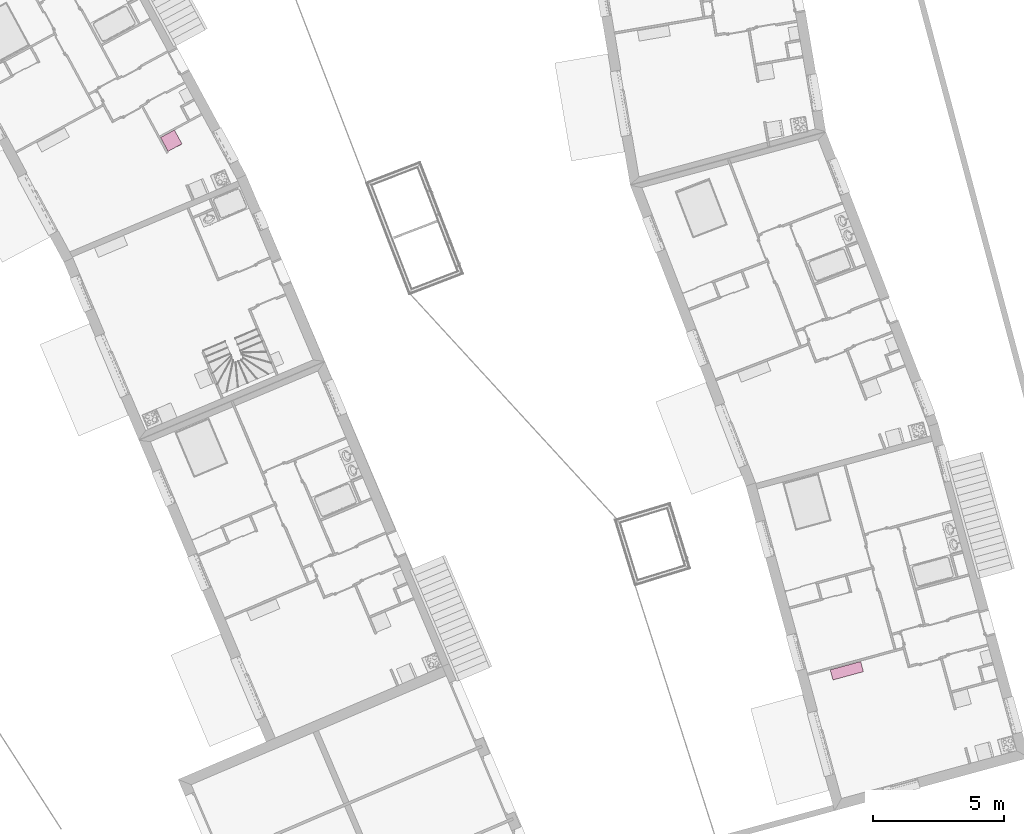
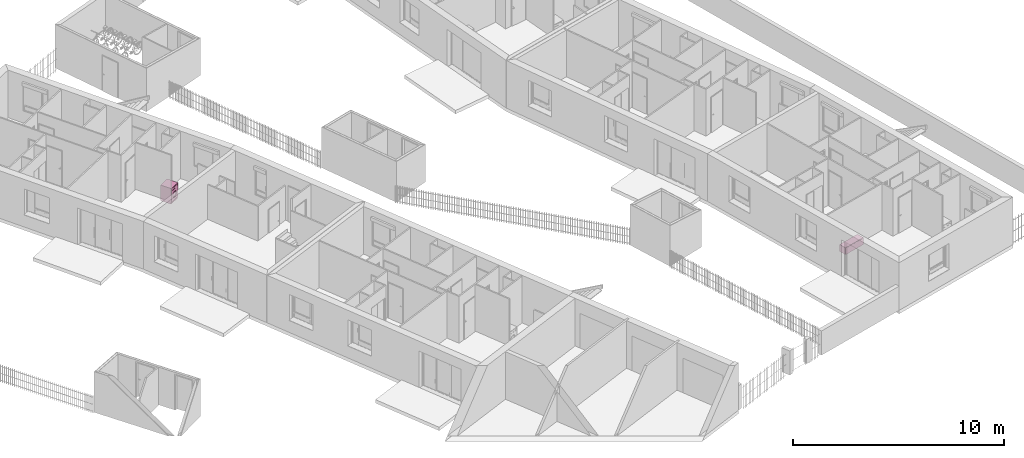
# One storey, part 160 of 195: 2 furnishings.
"""IFC2X3 building model written with IfcOpenShell, lengths in metres."""

from ifc_helpers import new_model, entity, si_unit, converted_unit, derived_unit, money_unit, direction, frame, origin_with_axes, place, context, subcontext, project, spatial, open_shell, faceted_brep, surface_model, source, transform, mapped, type_object, element, save


model = new_model("IFC2X3")

# Units and contexts
model_context = context("Model", 3, precision=1e-05, world=origin_with_axes(), true_north=direction((0.0, 1.0)))
body_context = subcontext(model_context, "Body", "Model", "MODEL_VIEW")
ifc_project = project(units=[si_unit("LENGTHUNIT", "METRE"), si_unit("AREAUNIT", "SQUARE_METRE"), si_unit("VOLUMEUNIT", "CUBIC_METRE"), converted_unit("PLANEANGLEUNIT", "DEGREE", entity("IfcPlaneAngleMeasure", 0.0174532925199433), si_unit("PLANEANGLEUNIT", "RADIAN"), dimensions=[0, 0, 0, 0, 0, 0, 0]), money_unit("CHF"), converted_unit("TIMEUNIT", "Year", entity("IfcTimeMeasure", 31557600.0), si_unit("TIMEUNIT", "SECOND"), dimensions=[0, 0, 1, 0, 0, 0, 0]), si_unit("MASSUNIT", "GRAM", prefix="KILO"), si_unit("THERMODYNAMICTEMPERATUREUNIT", "DEGREE_CELSIUS"), si_unit("LUMINOUSINTENSITYUNIT", "LUMEN"), si_unit("ENERGYUNIT", "JOULE", prefix="MEGA"), derived_unit("THERMALCONDUCTANCEUNIT", [(si_unit("POWERUNIT", "WATT"), 1), (si_unit("LENGTHUNIT", "METRE"), -1), (si_unit("THERMODYNAMICTEMPERATUREUNIT", "KELVIN"), -1)]), derived_unit("SPECIFICHEATCAPACITYUNIT", [(si_unit("ENERGYUNIT", "JOULE"), 1), (si_unit("MASSUNIT", "GRAM", prefix="KILO"), -1), (si_unit("THERMODYNAMICTEMPERATUREUNIT", "KELVIN"), -1)]), derived_unit("MASSDENSITYUNIT", [(si_unit("MASSUNIT", "GRAM", prefix="KILO"), 1), (si_unit("VOLUMEUNIT", "CUBIC_METRE"), -1)])], contexts=[model_context])

# Site, building, storey
site_placement = place(None, origin_with_axes())
site = spatial("IfcSite", under=ifc_project, at=site_placement, Name="Site", CompositionType="ELEMENT")
building_placement = place(site_placement, origin_with_axes())
building = spatial("IfcBuilding", under=site, at=building_placement, Name="Bâtiment", CompositionType="ELEMENT")
storey_placement = place(building_placement, origin_with_axes())
storey = spatial("IfcBuildingStorey", under=building, at=storey_placement, Name="rdc", CompositionType="ELEMENT", Elevation=0.0)

# Furnishings
furnishing_element_type_1 = type_object("IfcFurnishingElementType", Name="Meuble à plans 27")
shared_shape_1 = source(origin_with_axes(), body_context, "Body", "SurfaceModel", [
    surface_model("IfcShellBasedSurfaceModel", [(-1.18, 0.02, 0.0), (-1.18, 0.4, 0.0), (-0.02, 0.4, 0.0), (-0.02, 0.02, 0.0)], [open_shell([[[0, 1, 2, 3]]])]),
    faceted_brep([(0.0, 0.4, 0.0), (0.0, 0.0, 0.0), (-1.2, 0.0, 0.0), (-1.2, 0.4, 0.0), (0.0, 0.4, 0.4), (0.0, 0.0, 0.4), (-1.2, 0.0, 0.4), (-0.02, 0.0, 0.02), (-1.18, 0.0, 0.02), (-1.18, 0.0, 0.38), (-0.02, 0.0, 0.38), (-1.2, 0.4, 0.4), (-0.02, 0.4, 0.01999999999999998), (-0.02, 0.4, 0.38), (-1.18, 0.4, 0.38), (-1.18, 0.4, 0.01999999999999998)], [[[0, 1, 2, 3]], [[4, 5, 1, 0]], [[1, 5, 6, 2], [7, 8, 9, 10]], [[3, 2, 6, 11]], [[0, 3, 11, 4], [12, 13, 14, 15]], [[11, 6, 5, 4]], [[15, 8, 7, 12]], [[14, 9, 8, 15]], [[13, 10, 9, 14]], [[12, 7, 10, 13]]]),
    faceted_brep([(-1.18, 0.4, 0.01999999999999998), (-1.18, 0.4, 0.38), (-0.02, 0.4, 0.38), (-0.02, 0.4, 0.01999999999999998), (-1.18, 0.38, 0.01999999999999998), (-1.18, 0.3800000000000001, 0.38), (-0.02, 0.3800000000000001, 0.38), (-0.02, 0.38, 0.01999999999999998)], [[[0, 1, 2, 3]], [[0, 4, 5, 1]], [[1, 5, 6, 2]], [[2, 6, 7, 3]], [[3, 7, 4, 0]], [[7, 6, 5, 4]]]),
    faceted_brep([(-1.18, 0.0, 0.02), (-1.18, 0.38, 0.02), (-0.02, 0.38, 0.02), (-0.02, 0.0, 0.02), (-1.18, 0.0, 0.3750000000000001), (-1.18, 0.38, 0.3750000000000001), (-0.02, 0.38, 0.3750000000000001), (-0.02, 0.0, 0.3750000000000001)], [[[0, 1, 2, 3]], [[0, 4, 5, 1]], [[1, 5, 6, 2]], [[2, 6, 7, 3]], [[3, 7, 4, 0]], [[7, 6, 5, 4]]]),
])
furnishing_1_placement = place(storey_placement, frame((9590.842043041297, -1054.140814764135, 57.92018680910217), z_axis=(0.0, 0.0, 1.0), x_axis=(0.9648682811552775, 0.2627340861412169, 0.0)))
element("IfcFurnishingElement", 1, at=furnishing_1_placement, inside=storey, type_object=furnishing_element_type_1, Name="Obj.-376", context=body_context, shape_type="MappedRepresentation", body=[
    mapped(shared_shape_1, transform((0.0, 0.0, 0.0))),
])
furnishing_element_type_2 = type_object("IfcFurnishingElementType", Name="Machine à laver")
shared_shape_2 = source(origin_with_axes(), body_context, "Body", "SurfaceModel", [
    faceted_brep([(0.0, 0.02, 0.1), (0.0, 0.0, 0.1), (-0.6, 0.0, 0.1), (-0.6, 0.02, 0.1), (0.0, 0.02000000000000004, 0.74), (0.0, 0.0, 0.74), (-0.6, 0.0, 0.74), (-0.4714285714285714, 0.0, 0.42), (-0.4655872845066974, 0.0, 0.4643689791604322), (-0.448461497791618, 0.0, 0.5057142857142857), (-0.4212183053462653, 0.0, 0.5412183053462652), (-0.3857142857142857, 0.0, 0.568461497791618), (-0.3443689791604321, 0.0, 0.5855872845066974), (-0.3, 0.0, 0.5914285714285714), (-0.2556310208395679, 0.0, 0.5855872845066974), (-0.2142857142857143, 0.0, 0.5684614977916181), (-0.1787816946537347, 0.0, 0.5412183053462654), (-0.1515385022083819, 0.0, 0.5057142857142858), (-0.1344127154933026, 0.0, 0.4643689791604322), (-0.1285714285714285, 0.0, 0.42), (-0.1344127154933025, 0.0, 0.3756310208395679), (-0.1515385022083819, 0.0, 0.3342857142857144), (-0.1787816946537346, 0.0, 0.2987816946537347), (-0.2142857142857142, 0.0, 0.2715385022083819), (-0.2556310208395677, 0.0, 0.2544127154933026), (-0.2999999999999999, 0.0, 0.2485714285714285), (-0.344368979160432, 0.0, 0.2544127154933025), (-0.3857142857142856, 0.0, 0.2715385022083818), (-0.4212183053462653, 0.0, 0.2987816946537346), (-0.448461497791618, 0.0, 0.3342857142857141), (-0.4655872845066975, 0.0, 0.3756310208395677), (-0.6, 0.02000000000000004, 0.74), (-0.4714285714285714, 0.02000000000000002, 0.42), (-0.4655872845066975, 0.02000000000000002, 0.3756310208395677), (-0.448461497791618, 0.02000000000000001, 0.3342857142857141), (-0.4212183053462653, 0.02000000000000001, 0.2987816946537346), (-0.3857142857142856, 0.02000000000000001, 0.2715385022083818), (-0.344368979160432, 0.02000000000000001, 0.2544127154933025), (-0.2999999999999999, 0.02000000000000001, 0.2485714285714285), (-0.2556310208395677, 0.02000000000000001, 0.2544127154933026), (-0.2142857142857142, 0.02000000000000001, 0.2715385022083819), (-0.1787816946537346, 0.02000000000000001, 0.2987816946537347), (-0.1515385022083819, 0.02000000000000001, 0.3342857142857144), (-0.1344127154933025, 0.02000000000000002, 0.3756310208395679), (-0.1285714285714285, 0.02000000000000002, 0.42), (-0.1344127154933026, 0.02000000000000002, 0.4643689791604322), (-0.1515385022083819, 0.02000000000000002, 0.5057142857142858), (-0.1787816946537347, 0.02000000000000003, 0.5412183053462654), (-0.2142857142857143, 0.02000000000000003, 0.5684614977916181), (-0.2556310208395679, 0.02000000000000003, 0.5855872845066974), (-0.3, 0.02000000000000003, 0.5914285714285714), (-0.3443689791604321, 0.02000000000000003, 0.5855872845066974), (-0.3857142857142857, 0.02000000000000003, 0.568461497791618), (-0.4212183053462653, 0.02000000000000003, 0.5412183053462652), (-0.448461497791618, 0.02000000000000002, 0.5057142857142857), (-0.4655872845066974, 0.02000000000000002, 0.4643689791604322)], [[[0, 1, 2, 3]], [[4, 5, 1, 0]], [[1, 5, 6, 2], [7, 8, 9, 10, 11, 12, 13, 14, 15, 16, 17, 18, 19, 20, 21, 22, 23, 24, 25, 26, 27, 28, 29, 30]], [[3, 2, 6, 31]], [[0, 3, 31, 4], [32, 33, 34, 35, 36, 37, 38, 39, 40, 41, 42, 43, 44, 45, 46, 47, 48, 49, 50, 51, 52, 53, 54, 55]], [[31, 6, 5, 4]], [[55, 8, 7, 32]], [[54, 9, 8, 55]], [[53, 10, 9, 54]], [[52, 11, 10, 53]], [[51, 12, 11, 52]], [[50, 13, 12, 51]], [[49, 14, 13, 50]], [[48, 15, 14, 49]], [[47, 16, 15, 48]], [[46, 17, 16, 47]], [[45, 18, 17, 46]], [[44, 19, 18, 45]], [[43, 20, 19, 44]], [[42, 21, 20, 43]], [[41, 22, 21, 42]], [[40, 23, 22, 41]], [[39, 24, 23, 40]], [[38, 25, 24, 39]], [[37, 26, 25, 38]], [[36, 27, 26, 37]], [[35, 28, 27, 36]], [[34, 29, 28, 35]], [[33, 30, 29, 34]], [[32, 7, 30, 33]]]),
    faceted_brep([(-0.4714285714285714, 0.04000000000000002, 0.42), (-0.4714285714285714, 0.02000000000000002, 0.42), (-0.4655872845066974, 0.02000000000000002, 0.4643689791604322), (-0.4655872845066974, 0.04000000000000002, 0.4643689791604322), (-0.4655872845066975, 0.04000000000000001, 0.3756310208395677), (-0.4655872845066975, 0.02000000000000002, 0.3756310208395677), (-0.448461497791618, 0.02000000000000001, 0.3342857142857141), (-0.4212183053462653, 0.02000000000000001, 0.2987816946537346), (-0.3857142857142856, 0.02000000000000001, 0.2715385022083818), (-0.344368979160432, 0.02000000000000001, 0.2544127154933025), (-0.2999999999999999, 0.02000000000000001, 0.2485714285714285), (-0.2556310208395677, 0.02000000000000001, 0.2544127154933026), (-0.2142857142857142, 0.02000000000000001, 0.2715385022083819), (-0.1787816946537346, 0.02000000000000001, 0.2987816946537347), (-0.1515385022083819, 0.02000000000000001, 0.3342857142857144), (-0.1344127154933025, 0.02000000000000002, 0.3756310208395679), (-0.1285714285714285, 0.02000000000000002, 0.42), (-0.1344127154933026, 0.02000000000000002, 0.4643689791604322), (-0.1515385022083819, 0.02000000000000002, 0.5057142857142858), (-0.1787816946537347, 0.02000000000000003, 0.5412183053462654), (-0.2142857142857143, 0.02000000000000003, 0.5684614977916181), (-0.2556310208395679, 0.02000000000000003, 0.5855872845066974), (-0.3, 0.02000000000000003, 0.5914285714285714), (-0.3443689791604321, 0.02000000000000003, 0.5855872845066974), (-0.3857142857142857, 0.02000000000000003, 0.568461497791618), (-0.4212183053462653, 0.02000000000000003, 0.5412183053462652), (-0.448461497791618, 0.02000000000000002, 0.5057142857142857), (-0.4371428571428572, 0.02000000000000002, 0.42), (-0.432469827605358, 0.02000000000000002, 0.4554951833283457), (-0.4187691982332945, 0.02000000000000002, 0.4885714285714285), (-0.3969746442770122, 0.02000000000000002, 0.5169746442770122), (-0.3685714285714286, 0.02000000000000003, 0.5387691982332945), (-0.3354951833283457, 0.02000000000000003, 0.552469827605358), (-0.3, 0.02000000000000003, 0.5571428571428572), (-0.2645048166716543, 0.02000000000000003, 0.552469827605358), (-0.2314285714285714, 0.02000000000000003, 0.5387691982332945), (-0.2030253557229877, 0.02000000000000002, 0.5169746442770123), (-0.1812308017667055, 0.02000000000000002, 0.4885714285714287), (-0.167530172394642, 0.02000000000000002, 0.4554951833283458), (-0.1628571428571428, 0.02000000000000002, 0.42), (-0.167530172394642, 0.02000000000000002, 0.3845048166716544), (-0.1812308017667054, 0.02000000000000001, 0.3514285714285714), (-0.2030253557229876, 0.02000000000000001, 0.3230253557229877), (-0.2314285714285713, 0.02000000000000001, 0.3012308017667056), (-0.2645048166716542, 0.02000000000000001, 0.287530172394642), (-0.2999999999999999, 0.02000000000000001, 0.2828571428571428), (-0.3354951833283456, 0.02000000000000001, 0.287530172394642), (-0.3685714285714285, 0.02000000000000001, 0.3012308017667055), (-0.3969746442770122, 0.02000000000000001, 0.3230253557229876), (-0.4187691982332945, 0.02000000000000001, 0.3514285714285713), (-0.432469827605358, 0.02000000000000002, 0.3845048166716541), (-0.448461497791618, 0.04000000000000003, 0.5057142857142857), (-0.4212183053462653, 0.04000000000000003, 0.5412183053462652), (-0.3857142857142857, 0.04000000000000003, 0.568461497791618), (-0.3443689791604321, 0.04000000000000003, 0.5855872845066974), (-0.3, 0.04000000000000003, 0.5914285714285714), (-0.2556310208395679, 0.04000000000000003, 0.5855872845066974), (-0.2142857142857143, 0.04000000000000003, 0.5684614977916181), (-0.1787816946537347, 0.04000000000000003, 0.5412183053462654), (-0.1515385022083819, 0.04000000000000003, 0.5057142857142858), (-0.1344127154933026, 0.04000000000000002, 0.4643689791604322), (-0.1285714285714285, 0.04000000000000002, 0.42), (-0.1344127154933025, 0.04000000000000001, 0.3756310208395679), (-0.1515385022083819, 0.04000000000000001, 0.3342857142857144), (-0.1787816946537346, 0.04000000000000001, 0.2987816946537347), (-0.2142857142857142, 0.04000000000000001, 0.2715385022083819), (-0.2556310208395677, 0.04000000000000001, 0.2544127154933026), (-0.2999999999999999, 0.04000000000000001, 0.2485714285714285), (-0.344368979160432, 0.04000000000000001, 0.2544127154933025), (-0.3857142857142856, 0.04000000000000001, 0.2715385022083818), (-0.4212183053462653, 0.04000000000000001, 0.2987816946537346), (-0.448461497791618, 0.04000000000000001, 0.3342857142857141), (-0.4371428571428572, 0.04000000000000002, 0.42), (-0.432469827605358, 0.04000000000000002, 0.3845048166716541), (-0.4187691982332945, 0.04000000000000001, 0.3514285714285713), (-0.3969746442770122, 0.04000000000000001, 0.3230253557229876), (-0.3685714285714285, 0.04000000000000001, 0.3012308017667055), (-0.3354951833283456, 0.04000000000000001, 0.287530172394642), (-0.2999999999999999, 0.04000000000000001, 0.2828571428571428), (-0.2645048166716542, 0.04000000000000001, 0.287530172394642), (-0.2314285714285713, 0.04000000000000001, 0.3012308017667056), (-0.2030253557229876, 0.04000000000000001, 0.3230253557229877), (-0.1812308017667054, 0.04000000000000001, 0.3514285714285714), (-0.167530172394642, 0.04000000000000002, 0.3845048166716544), (-0.1628571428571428, 0.04000000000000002, 0.42), (-0.167530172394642, 0.04000000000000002, 0.4554951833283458), (-0.1812308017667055, 0.04000000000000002, 0.4885714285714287), (-0.2030253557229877, 0.04000000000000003, 0.5169746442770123), (-0.2314285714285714, 0.04000000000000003, 0.5387691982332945), (-0.2645048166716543, 0.04000000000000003, 0.552469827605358), (-0.3, 0.04000000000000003, 0.5571428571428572), (-0.3354951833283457, 0.04000000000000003, 0.552469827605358), (-0.3685714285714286, 0.04000000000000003, 0.5387691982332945), (-0.3969746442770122, 0.04000000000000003, 0.5169746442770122), (-0.4187691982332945, 0.04000000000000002, 0.4885714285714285), (-0.432469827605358, 0.04000000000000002, 0.4554951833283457)], [[[0, 1, 2, 3]], [[4, 5, 1, 0]], [[1, 5, 6, 7, 8, 9, 10, 11, 12, 13, 14, 15, 16, 17, 18, 19, 20, 21, 22, 23, 24, 25, 26, 2], [27, 28, 29, 30, 31, 32, 33, 34, 35, 36, 37, 38, 39, 40, 41, 42, 43, 44, 45, 46, 47, 48, 49, 50]], [[3, 2, 26, 51]], [[0, 3, 51, 52, 53, 54, 55, 56, 57, 58, 59, 60, 61, 62, 63, 64, 65, 66, 67, 68, 69, 70, 71, 4], [72, 73, 74, 75, 76, 77, 78, 79, 80, 81, 82, 83, 84, 85, 86, 87, 88, 89, 90, 91, 92, 93, 94, 95]], [[71, 6, 5, 4]], [[70, 7, 6, 71]], [[69, 8, 7, 70]], [[68, 9, 8, 69]], [[67, 10, 9, 68]], [[66, 11, 10, 67]], [[65, 12, 11, 66]], [[64, 13, 12, 65]], [[63, 14, 13, 64]], [[62, 15, 14, 63]], [[61, 16, 15, 62]], [[60, 17, 16, 61]], [[59, 18, 17, 60]], [[58, 19, 18, 59]], [[57, 20, 19, 58]], [[56, 21, 20, 57]], [[55, 22, 21, 56]], [[54, 23, 22, 55]], [[53, 24, 23, 54]], [[52, 25, 24, 53]], [[51, 26, 25, 52]], [[95, 28, 27, 72]], [[94, 29, 28, 95]], [[93, 30, 29, 94]], [[92, 31, 30, 93]], [[91, 32, 31, 92]], [[90, 33, 32, 91]], [[89, 34, 33, 90]], [[88, 35, 34, 89]], [[87, 36, 35, 88]], [[86, 37, 36, 87]], [[85, 38, 37, 86]], [[84, 39, 38, 85]], [[83, 40, 39, 84]], [[82, 41, 40, 83]], [[81, 42, 41, 82]], [[80, 43, 42, 81]], [[79, 44, 43, 80]], [[78, 45, 44, 79]], [[77, 46, 45, 78]], [[76, 47, 46, 77]], [[75, 48, 47, 76]], [[74, 49, 48, 75]], [[73, 50, 49, 74]], [[72, 27, 50, 73]]]),
    surface_model("IfcShellBasedSurfaceModel", [(-0.2645048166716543, 0.03999999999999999, 0.552469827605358), (-0.2733786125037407, 0.14, 0.5193523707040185), (-0.3, 0.14, 0.5228571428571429), (-0.3, 0.03999999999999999, 0.5571428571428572), (-0.2314285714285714, 0.03999999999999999, 0.5387691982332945), (-0.2485714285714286, 0.14, 0.5090768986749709), (-0.2272690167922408, 0.14, 0.4927309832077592), (-0.2109231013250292, 0.14, 0.4714285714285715), (-0.2006476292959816, 0.14, 0.4466213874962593), (-0.1971428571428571, 0.14, 0.4200000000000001), (-0.2006476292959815, 0.14, 0.3933786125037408), (-0.2109231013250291, 0.14, 0.3685714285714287), (-0.2272690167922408, 0.14, 0.3472690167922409), (-0.2485714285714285, 0.14, 0.3309231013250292), (-0.2733786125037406, 0.14, 0.3206476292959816), (-0.2999999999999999, 0.14, 0.3171428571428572), (-0.3266213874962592, 0.14, 0.3206476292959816), (-0.3514285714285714, 0.14, 0.3309231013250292), (-0.3727309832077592, 0.14, 0.3472690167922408), (-0.3890768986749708, 0.14, 0.3685714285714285), (-0.3993523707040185, 0.14, 0.3933786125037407), (-0.4028571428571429, 0.14, 0.42), (-0.3993523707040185, 0.14, 0.4466213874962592), (-0.3890768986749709, 0.14, 0.4714285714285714), (-0.3727309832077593, 0.14, 0.4927309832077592), (-0.3514285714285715, 0.14, 0.5090768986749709), (-0.3266213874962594, 0.14, 0.5193523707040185), (-0.3354951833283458, 0.03999999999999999, 0.552469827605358), (-0.2030253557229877, 0.03999999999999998, 0.5169746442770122), (-0.1812308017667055, 0.03999999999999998, 0.4885714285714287), (-0.167530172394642, 0.03999999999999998, 0.4554951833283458), (-0.1628571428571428, 0.03999999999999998, 0.4200000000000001), (-0.167530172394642, 0.03999999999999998, 0.3845048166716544), (-0.1812308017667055, 0.03999999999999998, 0.3514285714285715), (-0.2030253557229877, 0.03999999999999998, 0.3230253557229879), (-0.2314285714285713, 0.03999999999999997, 0.3012308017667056), (-0.2645048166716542, 0.03999999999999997, 0.2875301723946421), (-0.2999999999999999, 0.03999999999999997, 0.2828571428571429), (-0.3354951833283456, 0.03999999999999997, 0.2875301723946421), (-0.3685714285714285, 0.03999999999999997, 0.3012308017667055), (-0.3969746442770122, 0.03999999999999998, 0.3230253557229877), (-0.4187691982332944, 0.03999999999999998, 0.3514285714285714), (-0.432469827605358, 0.03999999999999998, 0.3845048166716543), (-0.4371428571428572, 0.03999999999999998, 0.4199999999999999), (-0.432469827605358, 0.03999999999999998, 0.4554951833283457), (-0.4187691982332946, 0.03999999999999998, 0.4885714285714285), (-0.3969746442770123, 0.03999999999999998, 0.5169746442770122), (-0.3685714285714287, 0.03999999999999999, 0.5387691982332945)], [open_shell([[[0, 1, 2, 3]], [[4, 5, 1, 0]], [[2, 1, 5, 6, 7, 8, 9, 10, 11, 12, 13, 14, 15, 16, 17, 18, 19, 20, 21, 22, 23, 24, 25, 26]], [[3, 2, 26, 27]], [[28, 6, 5, 4]], [[29, 7, 6, 28]], [[30, 8, 7, 29]], [[31, 9, 8, 30]], [[32, 10, 9, 31]], [[33, 11, 10, 32]], [[34, 12, 11, 33]], [[35, 13, 12, 34]], [[36, 14, 13, 35]], [[37, 15, 14, 36]], [[38, 16, 15, 37]], [[39, 17, 16, 38]], [[40, 18, 17, 39]], [[41, 19, 18, 40]], [[42, 20, 19, 41]], [[43, 21, 20, 42]], [[44, 22, 21, 43]], [[45, 23, 22, 44]], [[46, 24, 23, 45]], [[47, 25, 24, 46]], [[27, 26, 25, 47]]])]),
    surface_model("IfcShellBasedSurfaceModel", [(0.0, 0.02, 0.1), (0.0, 0.6, 0.09999999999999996), (0.0, 0.6, 0.87), (0.0, 0.02000000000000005, 0.87)], [open_shell([[[0, 1, 2, 3]]])]),
    surface_model("IfcShellBasedSurfaceModel", [(-0.6, 0.01999999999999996, 0.1), (-0.6, 0.5999999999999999, 0.09999999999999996), (-0.6, 0.5999999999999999, 0.87), (-0.6, 0.02000000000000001, 0.87)], [open_shell([[[0, 1, 2, 3]]])]),
    surface_model("IfcShellBasedSurfaceModel", [(0.0, 0.6, 0.1), (-0.6, 0.6, 0.1), (-0.6, 0.6, 0.87), (0.0, 0.6, 0.87)], [open_shell([[[0, 1, 2, 3]]])]),
    faceted_brep([(0.0, 0.02, 0.0), (0.0, 0.02, 0.1), (-0.6, 0.02, 0.1), (-0.6, 0.02, 0.0), (0.0, 0.6, 0.0), (0.0, 0.6, 0.1), (-0.6, 0.6, 0.1), (-0.6, 0.6, 0.0)], [[[0, 1, 2, 3]], [[4, 5, 1, 0]], [[1, 5, 6, 2]], [[3, 2, 6, 7]], [[0, 3, 7, 4]], [[7, 6, 5, 4]]]),
    faceted_brep([(0.0, 0.02, 0.75), (0.0, 0.0, 0.75), (-0.6, 0.0, 0.75), (-0.6, 0.02, 0.75), (0.0, 0.02000000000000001, 0.86), (0.0, 0.0, 0.86), (-0.6, 0.0, 0.86), (-0.6, 0.02000000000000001, 0.86)], [[[0, 1, 2, 3]], [[4, 5, 1, 0]], [[1, 5, 6, 2]], [[3, 2, 6, 7]], [[0, 3, 7, 4]], [[7, 6, 5, 4]]]),
    surface_model("IfcShellBasedSurfaceModel", [(0.0, 0.02, 0.74), (-0.6, 0.02, 0.74), (-0.6, 0.02000000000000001, 0.87), (0.0, 0.02000000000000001, 0.87)], [open_shell([[[0, 1, 2, 3]]])]),
    faceted_brep([(0.0, 0.0, 0.87), (0.0, 0.0, 0.9), (-0.6, 0.0, 0.9), (-0.6, 0.0, 0.87), (0.0, 0.6, 0.87), (0.0, 0.6, 0.9), (-0.6, 0.6, 0.9), (-0.6, 0.6, 0.87)], [[[0, 1, 2, 3]], [[4, 5, 1, 0]], [[1, 5, 6, 2]], [[3, 2, 6, 7]], [[0, 3, 7, 4]], [[7, 6, 5, 4]]]),
    faceted_brep([(-0.06866025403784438, 0.0, 0.8049999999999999), (-0.06999999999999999, 0.0, 0.8099999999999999), (-0.06866025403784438, 0.0, 0.815), (-0.065, 0.0, 0.8186602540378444), (-0.06, 0.0, 0.82), (-0.055, 0.0, 0.8186602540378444), (-0.05133974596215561, 0.0, 0.815), (-0.05, 0.0, 0.8099999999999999), (-0.05133974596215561, 0.0, 0.8049999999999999), (-0.05499999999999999, 0.0, 0.8013397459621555), (-0.05999999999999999, 0.0, 0.7999999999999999), (-0.06499999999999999, 0.0, 0.8013397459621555), (-0.06866025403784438, -0.01, 0.8049999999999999), (-0.06999999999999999, -0.01, 0.8099999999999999), (-0.06866025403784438, -0.01, 0.815), (-0.065, -0.01, 0.8186602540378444), (-0.06, -0.01, 0.82), (-0.055, -0.01, 0.8186602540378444), (-0.05133974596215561, -0.01, 0.815), (-0.05, -0.01, 0.8099999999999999), (-0.05133974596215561, -0.01, 0.8049999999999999), (-0.05499999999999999, -0.01, 0.8013397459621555), (-0.05999999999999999, -0.01, 0.7999999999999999), (-0.06499999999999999, -0.01, 0.8013397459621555)], [[[0, 1, 2, 3, 4, 5, 6, 7, 8, 9, 10, 11]], [[0, 12, 13, 1]], [[1, 13, 14, 2]], [[2, 14, 15, 3]], [[3, 15, 16, 4]], [[4, 16, 17, 5]], [[5, 17, 18, 6]], [[6, 18, 19, 7]], [[7, 19, 20, 8]], [[8, 20, 21, 9]], [[9, 21, 22, 10]], [[10, 22, 23, 11]], [[11, 23, 12, 0]], [[12, 23, 22, 21, 20, 19, 18, 17, 16, 15, 14, 13]]]),
    faceted_brep([(-0.1086602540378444, 0.0, 0.8049999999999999), (-0.11, 0.0, 0.8099999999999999), (-0.1086602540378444, 0.0, 0.815), (-0.105, 0.0, 0.8186602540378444), (-0.1, 0.0, 0.82), (-0.095, 0.0, 0.8186602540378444), (-0.09133974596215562, 0.0, 0.815), (-0.09000000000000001, 0.0, 0.8099999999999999), (-0.09133974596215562, 0.0, 0.8049999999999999), (-0.095, 0.0, 0.8013397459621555), (-0.09999999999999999, 0.0, 0.7999999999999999), (-0.105, 0.0, 0.8013397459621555), (-0.1086602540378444, -0.01, 0.8049999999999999), (-0.11, -0.01, 0.8099999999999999), (-0.1086602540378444, -0.01, 0.815), (-0.105, -0.01, 0.8186602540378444), (-0.1, -0.01, 0.82), (-0.095, -0.01, 0.8186602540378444), (-0.09133974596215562, -0.01, 0.815), (-0.09000000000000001, -0.01, 0.8099999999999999), (-0.09133974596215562, -0.01, 0.8049999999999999), (-0.095, -0.01, 0.8013397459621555), (-0.09999999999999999, -0.01, 0.7999999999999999), (-0.105, -0.01, 0.8013397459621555)], [[[0, 1, 2, 3, 4, 5, 6, 7, 8, 9, 10, 11]], [[0, 12, 13, 1]], [[1, 13, 14, 2]], [[2, 14, 15, 3]], [[3, 15, 16, 4]], [[4, 16, 17, 5]], [[5, 17, 18, 6]], [[6, 18, 19, 7]], [[7, 19, 20, 8]], [[8, 20, 21, 9]], [[9, 21, 22, 10]], [[10, 22, 23, 11]], [[11, 23, 12, 0]], [[12, 23, 22, 21, 20, 19, 18, 17, 16, 15, 14, 13]]]),
    faceted_brep([(-0.1486602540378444, 0.0, 0.8049999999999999), (-0.15, 0.0, 0.8099999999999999), (-0.1486602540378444, 0.0, 0.815), (-0.145, 0.0, 0.8186602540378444), (-0.14, 0.0, 0.82), (-0.135, 0.0, 0.8186602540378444), (-0.1313397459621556, 0.0, 0.815), (-0.13, 0.0, 0.8099999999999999), (-0.1313397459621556, 0.0, 0.8049999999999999), (-0.135, 0.0, 0.8013397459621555), (-0.14, 0.0, 0.7999999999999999), (-0.145, 0.0, 0.8013397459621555), (-0.1486602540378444, -0.01, 0.8049999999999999), (-0.15, -0.01, 0.8099999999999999), (-0.1486602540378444, -0.01, 0.815), (-0.145, -0.01, 0.8186602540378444), (-0.14, -0.01, 0.82), (-0.135, -0.01, 0.8186602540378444), (-0.1313397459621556, -0.01, 0.815), (-0.13, -0.01, 0.8099999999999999), (-0.1313397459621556, -0.01, 0.8049999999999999), (-0.135, -0.01, 0.8013397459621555), (-0.14, -0.01, 0.7999999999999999), (-0.145, -0.01, 0.8013397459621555)], [[[0, 1, 2, 3, 4, 5, 6, 7, 8, 9, 10, 11]], [[0, 12, 13, 1]], [[1, 13, 14, 2]], [[2, 14, 15, 3]], [[3, 15, 16, 4]], [[4, 16, 17, 5]], [[5, 17, 18, 6]], [[6, 18, 19, 7]], [[7, 19, 20, 8]], [[8, 20, 21, 9]], [[9, 21, 22, 10]], [[10, 22, 23, 11]], [[11, 23, 12, 0]], [[12, 23, 22, 21, 20, 19, 18, 17, 16, 15, 14, 13]]]),
    faceted_brep([(-0.1886602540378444, 0.0, 0.8049999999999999), (-0.19, 0.0, 0.8099999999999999), (-0.1886602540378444, 0.0, 0.815), (-0.185, 0.0, 0.8186602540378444), (-0.18, 0.0, 0.82), (-0.175, 0.0, 0.8186602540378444), (-0.1713397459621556, 0.0, 0.815), (-0.17, 0.0, 0.8099999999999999), (-0.1713397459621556, 0.0, 0.8049999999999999), (-0.175, 0.0, 0.8013397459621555), (-0.18, 0.0, 0.7999999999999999), (-0.185, 0.0, 0.8013397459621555), (-0.1886602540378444, -0.01, 0.8049999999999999), (-0.19, -0.01, 0.8099999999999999), (-0.1886602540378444, -0.01, 0.815), (-0.185, -0.01, 0.8186602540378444), (-0.18, -0.01, 0.82), (-0.175, -0.01, 0.8186602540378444), (-0.1713397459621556, -0.01, 0.815), (-0.17, -0.01, 0.8099999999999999), (-0.1713397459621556, -0.01, 0.8049999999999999), (-0.175, -0.01, 0.8013397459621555), (-0.18, -0.01, 0.7999999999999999), (-0.185, -0.01, 0.8013397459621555)], [[[0, 1, 2, 3, 4, 5, 6, 7, 8, 9, 10, 11]], [[0, 12, 13, 1]], [[1, 13, 14, 2]], [[2, 14, 15, 3]], [[3, 15, 16, 4]], [[4, 16, 17, 5]], [[5, 17, 18, 6]], [[6, 18, 19, 7]], [[7, 19, 20, 8]], [[8, 20, 21, 9]], [[9, 21, 22, 10]], [[10, 22, 23, 11]], [[11, 23, 12, 0]], [[12, 23, 22, 21, 20, 19, 18, 17, 16, 15, 14, 13]]]),
])
furnishing_2_placement = place(storey_placement, frame((9564.923673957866, -1034.066570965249, 57.49999999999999), z_axis=(0.0, 0.0, 1.0), x_axis=(0.8798137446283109, 0.4753186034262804, 0.0)))
element("IfcFurnishingElement", 2, at=furnishing_2_placement, inside=storey, type_object=furnishing_element_type_2, Name="Obj.-019", context=body_context, shape_type="MappedRepresentation", body=[
    mapped(shared_shape_2, transform((0.0, 0.0, 0.0))),
])

save(model, "model.ifc")
